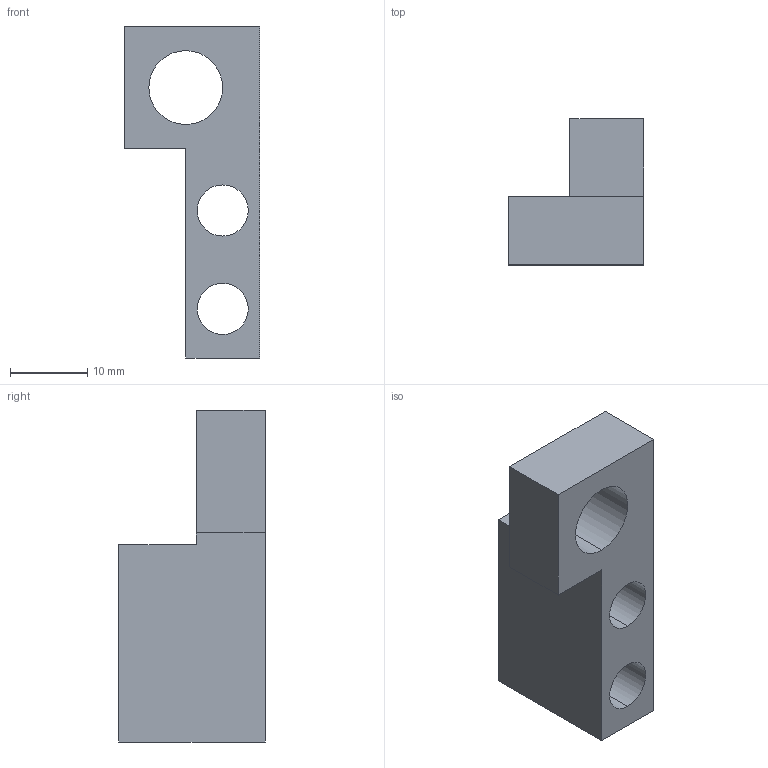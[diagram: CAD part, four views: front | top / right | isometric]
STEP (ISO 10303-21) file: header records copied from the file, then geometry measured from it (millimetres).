
FILE_DESCRIPTION (( 'STEP AP203' ), '1' );
FILE_NAME ('269-18-224.STEP', '2020-03-03T15:54:39', ( '' ), ( '' ), 'SwSTEP 2.0', 'SolidWorks 2017', '' );
FILE_SCHEMA (( 'CONFIG_CONTROL_DESIGN' ));
Length unit declared in the file: inch
Products named in the file (1): 269-18-224
Bounding box: 17.48 x 18.92 x 42.88 mm (x, y, z)
Volume: 5257.4 mm3; surface area: 3616.2 mm2
Topology: 1 solids, 1 shells, 16 faces, 42 edges, 28 vertices
Faces by surface type: plane 10, cylinder 6
Entity records: 589 total; most frequent: DIRECTION 88, CARTESIAN_POINT 87, ORIENTED_EDGE 84, EDGE_CURVE 42, LINE 30, VECTOR 30, AXIS2_PLACEMENT_3D 29, VERTEX_POINT 28
